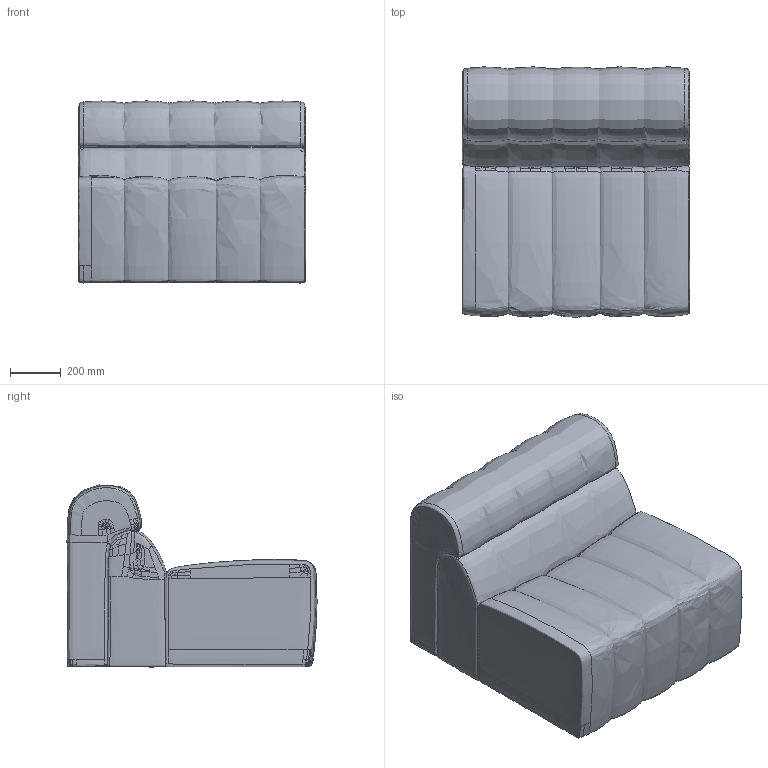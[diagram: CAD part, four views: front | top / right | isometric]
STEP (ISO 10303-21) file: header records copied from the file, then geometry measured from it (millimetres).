
FILE_DESCRIPTION(/* description */ (''),/* implementation_level */ '2;1');
FILE_NAME(/* name */ 'LOUNGE GS MATH',/* time_stamp */ '2025-10-30T15:08:54+01:00',/* author */ (''),/* organization */ (''),/* preprocessor_version */ 'ST-DEVELOPER v19.2',/* originating_system */ 'Rhino 8.1',/* authorisation */ '');
FILE_SCHEMA (('CONFIG_CONTROL_DESIGN'));
Length unit declared in the file: millimetre
Products named in the file (1): Document
Bounding box: 896.29 x 984.99 x 717.2 mm (x, y, z)
Volume: 141303783.7 mm3; surface area: 6570399.4 mm2
Topology: 2 solids, 2 shells, 600 faces, 1495 edges, 899 vertices
Faces by surface type: bspline 542, plane 58
Entity records: 60317 total; most frequent: CARTESIAN_POINT 50838, ORIENTED_EDGE 2990, EDGE_CURVE 1495, B_SPLINE_CURVE_WITH_KNOTS 1495, VERTEX_POINT 899, ADVANCED_FACE 600, FACE_OUTER_BOUND 600, EDGE_LOOP 600
